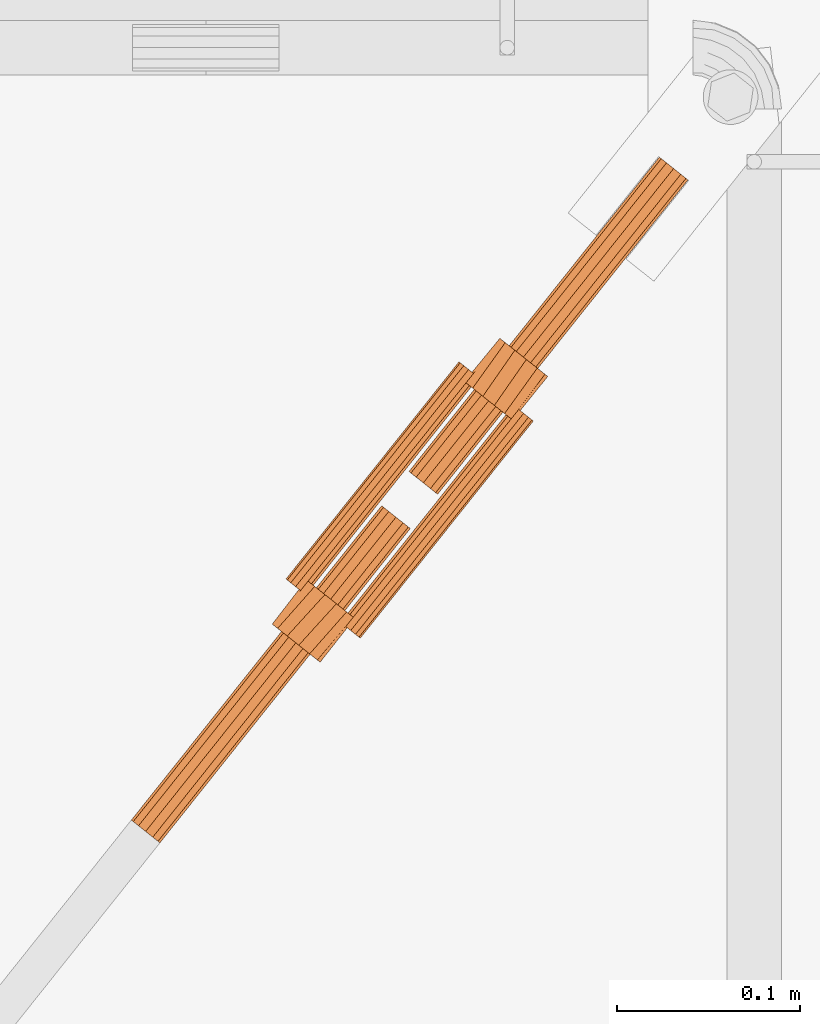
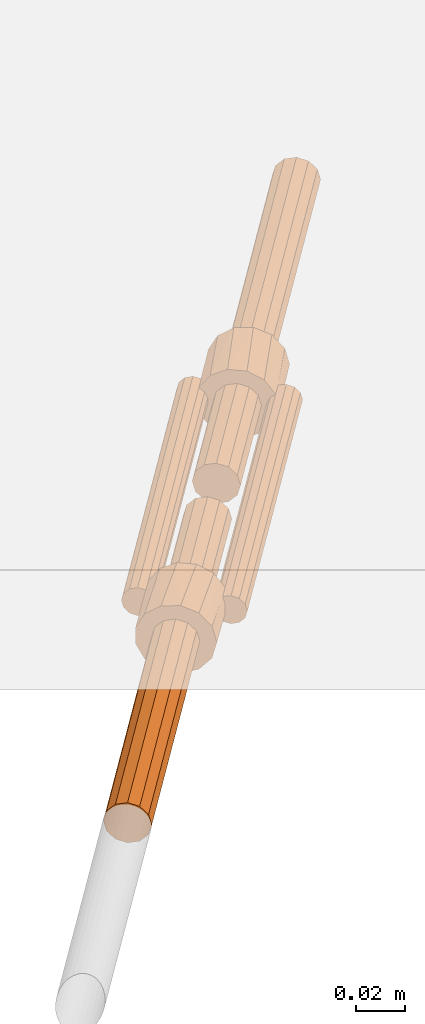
# One storey, part 134 of 145: 1 proxy.
"""IFC2X3 building model written with IfcOpenShell, lengths in millimetres."""

from ifc_helpers import new_model, entity, si_unit, converted_unit, origin_with_axes, place, context, project, spatial, faceted_brep, material, element, save


model = new_model("IFC2X3")

# Units and contexts
model_context = context("Model", 3, precision=1e-09, world=origin_with_axes())
ifc_project = project(units=[si_unit("LENGTHUNIT", "METRE", prefix="MILLI"), si_unit("AREAUNIT", "SQUARE_METRE"), si_unit("VOLUMEUNIT", "CUBIC_METRE"), converted_unit("PLANEANGLEUNIT", "DEGREE", entity("IfcPlaneAngleMeasure", 0.01745329), si_unit("PLANEANGLEUNIT", "RADIAN"), dimensions=[0, 0, 0, 0, 0, 0, 0])], contexts=[model_context])

# Site, building, storey
site_placement = place(None, origin_with_axes())
site = spatial("IfcSite", under=ifc_project, at=site_placement, Name="BZ1 Grund- und Mittelschule 85716 Unterschlei?heim", CompositionType="ELEMENT")
building_placement = place(site_placement, origin_with_axes())
building = spatial("IfcBuilding", under=site, at=building_placement, Name="Struktur 1", CompositionType="ELEMENT")
storey_placement = place(building_placement, origin_with_axes())
storey = spatial("IfcBuildingStorey", under=building, at=storey_placement, Name="Default Storey", CompositionType="ELEMENT", Elevation=0.0)

# Proxy
ifc_material = material(Name="S235JR")
proxy_placement = place(None, origin_with_axes())
element("IfcBuildingElementProxy", 1, at=proxy_placement, inside=storey, material=ifc_material, ObjectType="-", context=model_context, shape_type="Brep", body=[
    faceted_brep([(21272.734727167, -603.982838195, 1422.058250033), (21367.433780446, -485.087551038, 1422.058250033), (21366.734966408, -484.530951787, 1418.6363644), (21272.035913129, -603.426238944, 1418.6363644), (21367.433780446, -485.087551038, 1415.214478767), (21272.734727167, -603.982838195, 1415.214478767), (21279.179769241, -609.116257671, 1416.514330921), (21279.179769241, -609.116257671, 1420.758397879), (21280.002062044, -609.771206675, 1424.870207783), (21277.300520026, -607.619452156, 1425.631173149), (21274.652794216, -605.510561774, 1424.606685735), (21274.652794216, -605.510561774, 1412.666043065), (21277.300520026, -607.619452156, 1411.641555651), (21280.002062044, -609.771206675, 1412.402521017), (21369.351847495, -486.615274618, 1424.606685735), (21369.351847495, -486.615274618, 1412.666043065), (21371.999573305, -488.724165, 1411.641555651), (21374.701115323, -490.875919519, 1412.402521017), (21370.589182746, -496.03847804, 1412.402521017), (21284.11399462, -604.608648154, 1412.402521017), (21373.87882252, -490.220970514, 1420.758397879), (21373.87882252, -490.220970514, 1416.514330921), (21371.999573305, -488.724165, 1425.631173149), (21374.701115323, -490.875919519, 1424.870207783), (21372.426947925, -497.502241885, 1414.349356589), (21373.442289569, -498.310952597, 1417.110737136), (21286.967101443, -606.881122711, 1417.110737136), (21285.9517598, -606.072411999, 1414.349356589), (21287.745013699, -607.500723, 1405.824378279), (21293.336385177, -611.954201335, 1402.119860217), (21286.967101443, -606.881122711, 1420.161991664), (21285.9517598, -606.072411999, 1422.923372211), (21284.11399462, -604.608648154, 1424.870207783), (21287.745013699, -607.500723, 1431.448350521), (21293.336385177, -611.954201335, 1435.152868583), (21299.634009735, -616.970204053, 1435.152868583), (21305.225381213, -621.423682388, 1431.448350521), (21308.856400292, -624.315757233, 1424.870207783), (21307.018635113, -622.851993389, 1422.923372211), (21306.00329347, -622.043282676, 1420.161991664), (21306.00329347, -622.043282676, 1417.110737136), (21307.018635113, -622.851993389, 1414.349356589), (21308.856400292, -624.315757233, 1412.402521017), (21305.225381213, -621.423682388, 1405.824378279), (21299.634009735, -616.970204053, 1402.119860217), (21289.711096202, -609.066690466, 1413.6363644), (21292.574168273, -611.347102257, 1409.976110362), (21296.485197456, -614.462202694, 1408.6363644), (21300.396226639, -617.577303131, 1409.976110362), (21303.259298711, -619.857714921, 1413.6363644), (21304.307255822, -620.692403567, 1418.6363644), (21303.259298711, -619.857714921, 1423.6363644), (21300.396226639, -617.577303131, 1427.296618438), (21296.485197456, -614.462202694, 1428.6363644), (21292.574168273, -611.347102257, 1427.296618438), (21289.711096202, -609.066690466, 1423.6363644), (21288.663139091, -608.23200182, 1418.6363644), (21373.442289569, -498.310952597, 1420.161991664), (21379.811573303, -503.384031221, 1435.152868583), (21374.220201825, -498.930552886, 1431.448350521), (21370.589182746, -496.03847804, 1424.870207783), (21372.426947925, -497.502241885, 1422.923372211), (21374.220201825, -498.930552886, 1405.824378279), (21379.811573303, -503.384031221, 1402.119860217), (21386.109197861, -508.400033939, 1402.119860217), (21391.700569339, -512.853512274, 1405.824378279), (21395.331588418, -515.745587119, 1412.402521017), (21393.493823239, -514.281823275, 1414.349356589), (21392.478481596, -513.473112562, 1417.110737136), (21392.478481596, -513.473112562, 1420.161991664), (21393.493823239, -514.281823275, 1422.923372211), (21395.331588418, -515.745587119, 1424.870207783), (21391.700569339, -512.853512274, 1431.448350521), (21386.109197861, -508.400033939, 1435.152868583), (21376.186284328, -500.496520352, 1413.6363644), (21375.138327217, -499.661831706, 1418.6363644), (21376.186284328, -500.496520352, 1423.6363644), (21379.049356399, -502.776932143, 1427.296618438), (21382.960385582, -505.89203258, 1428.6363644), (21386.871414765, -509.007133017, 1427.296618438), (21389.734486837, -511.287544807, 1423.6363644), (21390.782443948, -512.122233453, 1418.6363644), (21389.734486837, -511.287544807, 1413.6363644), (21386.871414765, -509.007133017, 1409.976110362), (21382.960385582, -505.89203258, 1408.6363644), (21379.049356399, -502.776932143, 1409.976110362), (21264.509684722, -628.114124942, 1414.567998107), (21267.467461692, -630.469968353, 1407.36327921), (21264.509684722, -628.114124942, 1422.704730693), (21340.424931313, -545.395135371, 1413.6363644), (21339.376974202, -544.560446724, 1418.6363644), (21343.288003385, -547.675547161, 1409.976110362), (21267.467461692, -630.469968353, 1429.90944959), (21272.705424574, -634.641959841, 1402.741088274), (21279.023619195, -639.674346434, 1401.76031354), (21284.97462331, -644.414269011, 1404.64563868), (21289.195133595, -647.77586843, 1410.736070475), (21290.718282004, -648.989042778, 1418.6363644), (21289.195133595, -647.77586843, 1426.536658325), (21284.97462331, -644.414269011, 1432.62709012), (21279.023619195, -639.674346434, 1435.51241526), (21272.705424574, -634.641959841, 1434.531640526), (21269.598724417, -632.167500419, 1418.6363644), (21270.646681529, -633.002189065, 1423.6363644), (21273.5097536, -635.282600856, 1427.296618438), (21277.420782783, -638.397701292, 1428.6363644), (21281.331811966, -641.512801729, 1427.296618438), (21284.194884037, -643.79321352, 1423.6363644), (21285.242841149, -644.627902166, 1418.6363644), (21284.194884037, -643.79321352, 1413.6363644), (21281.331811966, -641.512801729, 1409.976110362), (21277.420782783, -638.397701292, 1408.6363644), (21273.5097536, -635.282600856, 1409.976110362), (21270.646681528, -633.002189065, 1413.6363644), (21191.271102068, -738.533771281, 1409.976110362), (21195.182131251, -741.648871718, 1408.6363644), (21188.408029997, -736.253359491, 1413.6363644), (21328.335521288, -566.448487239, 1409.976110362), (21332.246550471, -569.563587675, 1408.6363644), (21347.199032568, -550.790647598, 1408.6363644), (21392.071479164, -474.028801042, 1407.36327921), (21389.113702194, -471.67295763, 1414.567998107), (21389.113702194, -471.67295763, 1422.704730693), (21353.973133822, -556.186159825, 1423.6363644), (21351.11006175, -553.905748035, 1427.296618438), (21347.199032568, -550.790647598, 1428.6363644), (21343.288003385, -547.675547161, 1427.296618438), (21340.424931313, -545.395135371, 1423.6363644), (21351.11006175, -553.905748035, 1409.976110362), (21353.973133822, -556.186159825, 1413.6363644), (21355.021090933, -557.020848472, 1418.6363644), (21201.956232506, -747.044383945, 1423.6363644), (21199.093160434, -744.763972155, 1427.296618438), (21195.182131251, -741.648871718, 1428.6363644), (21191.271102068, -738.533771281, 1427.296618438), (21188.408029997, -736.253359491, 1423.6363644), (21187.360072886, -735.418670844, 1418.6363644), (21199.093160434, -744.763972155, 1409.976110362), (21201.956232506, -747.044383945, 1413.6363644), (21203.004189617, -747.879072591, 1418.6363644), (21325.472449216, -564.168075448, 1423.6363644), (21328.335521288, -566.448487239, 1427.296618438), (21332.246550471, -569.563587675, 1428.6363644), (21336.157579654, -572.678688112, 1427.296618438), (21339.020651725, -574.959099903, 1423.6363644), (21340.068608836, -575.793788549, 1418.6363644), (21339.020651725, -574.959099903, 1413.6363644), (21336.157579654, -572.678688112, 1409.976110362), (21325.472449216, -564.168075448, 1413.6363644), (21324.424492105, -563.333386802, 1418.6363644), (21397.309442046, -478.20079253, 1402.741088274), (21392.071479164, -474.028801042, 1429.90944959), (21409.578640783, -487.973101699, 1404.64563868), (21403.627636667, -483.233179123, 1401.76031354), (21397.309442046, -478.20079253, 1434.531640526), (21403.627636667, -483.233179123, 1435.51241526), (21409.578640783, -487.973101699, 1432.62709012), (21413.799151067, -491.334701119, 1426.536658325), (21415.322299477, -492.547875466, 1418.6363644), (21413.799151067, -491.334701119, 1410.736070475), (21402.024800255, -481.956533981, 1408.6363644), (21405.935829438, -485.071634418, 1409.976110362), (21408.79890151, -487.352046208, 1413.6363644), (21409.846858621, -488.186734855, 1418.6363644), (21408.79890151, -487.352046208, 1423.6363644), (21405.935829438, -485.071634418, 1427.296618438), (21402.024800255, -481.956533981, 1428.6363644), (21398.113771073, -478.841433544, 1427.296618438), (21395.250699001, -476.561021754, 1423.6363644), (21394.20274189, -475.726333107, 1418.6363644), (21395.250699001, -476.561021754, 1413.6363644), (21398.113771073, -478.841433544, 1409.976110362), (21480.352422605, -375.590263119, 1427.296618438), (21484.263451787, -378.705363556, 1428.6363644), (21477.489350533, -373.309851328, 1423.6363644), (21491.037553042, -384.100875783, 1413.6363644), (21488.17448097, -381.820463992, 1409.976110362), (21484.263451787, -378.705363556, 1408.6363644), (21480.352422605, -375.590263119, 1409.976110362), (21477.489350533, -373.309851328, 1413.6363644), (21476.441393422, -372.475162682, 1418.6363644), (21488.17448097, -381.820463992, 1427.296618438), (21491.037553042, -384.100875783, 1423.6363644), (21492.085510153, -384.935564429, 1418.6363644), (21304.744467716, -629.478315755, 1412.402521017), (21399.443520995, -510.583028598, 1412.402521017), (21402.145063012, -512.734783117, 1411.641555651), (21307.446009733, -631.630070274, 1411.641555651), (21305.566760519, -630.133264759, 1416.514330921), (21310.093735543, -633.738960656, 1424.606685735), (21307.446009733, -631.630070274, 1425.631173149), (21304.744467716, -629.478315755, 1424.870207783), (21305.566760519, -630.133264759, 1420.758397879), (21310.093735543, -633.738960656, 1412.666043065), (21312.011802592, -635.266684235, 1415.214478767), (21312.71061663, -635.823283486, 1418.6363644), (21312.011802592, -635.266684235, 1422.058250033), (21400.265813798, -511.237977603, 1416.514330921), (21404.792788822, -514.843673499, 1412.666043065), (21400.265813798, -511.237977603, 1420.758397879), (21399.443520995, -510.583028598, 1424.870207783), (21402.145063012, -512.734783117, 1425.631173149), (21404.792788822, -514.843673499, 1424.606685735), (21406.710855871, -516.371397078, 1422.058250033), (21407.409669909, -516.92799633, 1418.6363644), (21406.710855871, -516.371397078, 1415.214478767)], [[[0, 1, 2, 3]], [[3, 2, 4, 5]], [[6, 7, 8, 9, 10, 0, 3, 5, 11, 12, 13]], [[0, 10, 14, 1]], [[12, 11, 15, 16]], [[11, 5, 4, 15]], [[12, 16, 17, 18, 19, 13]], [[20, 21, 17, 16, 15, 4, 2, 1, 14, 22, 23]], [[24, 25, 26, 27]], [[27, 19, 18, 24]], [[19, 28, 13]], [[29, 28, 19, 27, 26, 30, 31, 32, 33, 34, 35, 36, 37, 38, 39, 40, 41, 42, 43, 44], [45, 46, 47, 48, 49, 50, 51, 52, 53, 54, 55, 56]], [[10, 9, 22, 14]], [[25, 57, 30, 26]], [[58, 59, 60, 61, 57, 25, 24, 18, 62, 63, 64, 65, 66, 67, 68, 69, 70, 71, 72, 73], [74, 75, 76, 77, 78, 79, 80, 81, 82, 83, 84, 85]], [[86, 6, 13]], [[87, 86, 13]], [[87, 13, 28]], [[7, 6, 86, 88]], [[22, 9, 8, 32, 60, 23]], [[32, 31, 61, 60]], [[31, 30, 57, 61]], [[74, 89, 90, 75]], [[85, 91, 89, 74]], [[92, 88, 86, 87, 93, 94, 95, 96, 97, 98, 99, 100, 101], [102, 103, 104, 105, 106, 107, 108, 109, 110, 111, 112, 113]], [[93, 87, 28]], [[114, 112, 111, 115]], [[112, 114, 116, 113]], [[88, 8, 7]], [[46, 117, 118, 47]], [[91, 85, 84, 119]], [[62, 18, 120]], [[18, 17, 120]], [[17, 21, 121]], [[21, 20, 122, 121]], [[123, 124, 125, 126, 127, 90, 89, 91, 119, 128, 129, 130]], [[93, 28, 29]], [[131, 132, 133, 134, 135, 136, 116, 114, 115, 137, 138, 139]], [[32, 8, 33]], [[88, 92, 8]], [[140, 141, 142, 143, 144, 145, 146, 147, 118, 117, 148, 149]], [[45, 148, 117, 46]], [[56, 149, 148, 45]], [[55, 140, 149, 56]], [[54, 141, 140, 55]], [[20, 23, 122]], [[75, 90, 127, 76]], [[62, 120, 150]], [[17, 121, 120]], [[113, 116, 136, 102]], [[47, 118, 147, 48]], [[94, 93, 29]], [[115, 111, 110, 137]], [[141, 54, 53, 142]], [[92, 33, 8]], [[146, 49, 48, 147]], [[23, 151, 122]], [[60, 59, 23]], [[76, 127, 126, 77]], [[119, 84, 83, 128]], [[63, 62, 150]], [[152, 153, 150, 120, 121, 122, 151, 154, 155, 156, 157, 158, 159], [160, 161, 162, 163, 164, 165, 166, 167, 168, 169, 170, 171]], [[172, 167, 166, 173]], [[167, 172, 174, 168]], [[128, 83, 82, 129]], [[104, 134, 133, 105]], [[103, 135, 134, 104]], [[102, 136, 135, 103]], [[94, 29, 44]], [[92, 101, 33]], [[49, 146, 145, 50]], [[23, 59, 151]], [[129, 82, 81, 130]], [[63, 150, 153]], [[175, 176, 177, 178, 179, 180, 174, 172, 173, 181, 182, 183]], [[95, 94, 44]], [[137, 110, 109, 138]], [[142, 53, 52, 143]], [[101, 34, 33]], [[105, 133, 132, 106]], [[59, 154, 151]], [[77, 126, 125, 78]], [[64, 63, 153]], [[160, 177, 176, 161]], [[177, 160, 171, 178]], [[170, 179, 178, 171]], [[169, 180, 179, 170]], [[168, 174, 180, 169]], [[173, 166, 165, 181]], [[95, 44, 43]], [[101, 100, 34]], [[41, 40, 68, 67]], [[144, 51, 50, 145]], [[143, 52, 51, 144]], [[59, 58, 154]], [[130, 81, 80, 123]], [[64, 153, 152]], [[138, 109, 108, 139]], [[43, 96, 95]], [[100, 35, 34]], [[106, 132, 131, 107]], [[43, 42, 96]], [[67, 66, 42, 41]], [[40, 39, 69, 68]], [[58, 155, 154]], [[78, 125, 124, 79]], [[123, 80, 79, 124]], [[65, 64, 152]], [[161, 176, 175, 162]], [[181, 165, 164, 182]], [[139, 108, 107, 131]], [[100, 99, 35]], [[42, 184, 96]], [[58, 73, 155]], [[65, 152, 159]], [[66, 65, 159]], [[99, 36, 35]], [[42, 66, 185, 186, 187, 184]], [[188, 96, 184]], [[39, 38, 70, 69]], [[73, 156, 155]], [[162, 175, 183, 163]], [[182, 164, 163, 183]], [[185, 66, 159]], [[99, 98, 36]], [[188, 97, 96]], [[189, 190, 191, 192, 188, 184, 187, 193, 194, 195, 196]], [[73, 72, 156]], [[185, 159, 197]], [[98, 37, 36]], [[188, 192, 97]], [[186, 198, 193, 187]], [[197, 199, 200, 201, 202, 203, 204, 205, 198, 186, 185]], [[38, 37, 71, 70]], [[72, 157, 156]], [[197, 159, 158]], [[192, 98, 97]], [[191, 37, 98]], [[72, 71, 157]], [[199, 197, 158]], [[192, 191, 98]], [[190, 201, 200, 71, 37, 191]], [[194, 193, 198, 205]], [[71, 200, 157]], [[199, 158, 157]], [[194, 205, 204, 195]], [[199, 157, 200]], [[190, 189, 202, 201]], [[195, 204, 203, 196]], [[189, 196, 203, 202]]]),
])

save(model, "model.ifc")
